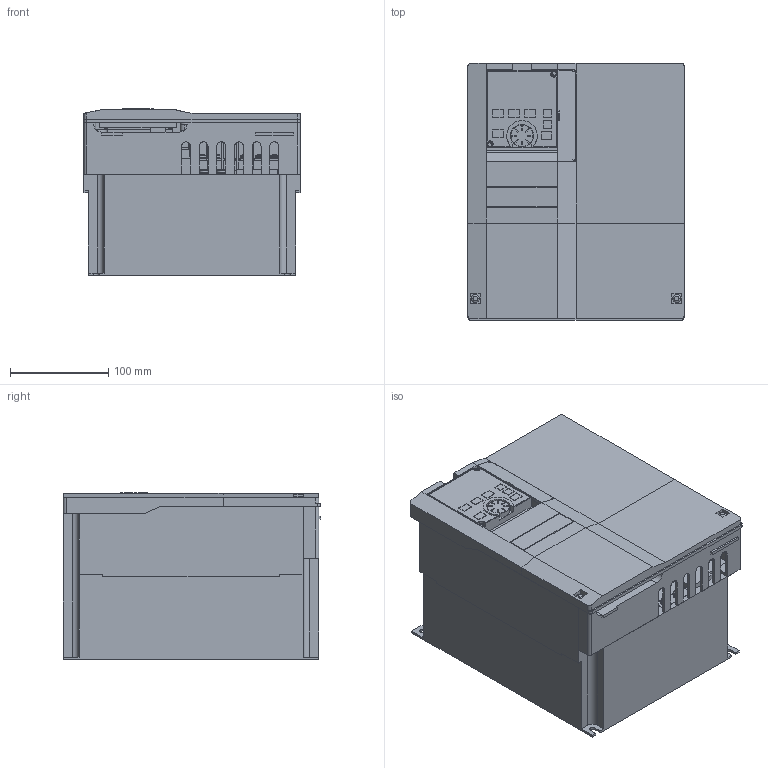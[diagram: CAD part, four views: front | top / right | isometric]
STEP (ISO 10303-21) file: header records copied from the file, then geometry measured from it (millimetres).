
FILE_DESCRIPTION((''),'2;1');
FILE_NAME('3D-INV-A8-01_05_ASM','2014-01-20T',('PZ79677'),(''),'PRO/ENGINEER BY PARAMETRIC TECHNOLOGY CORPORATION, 2011490','PRO/ENGINEER BY PARAMETRIC TECHNOLOGY CORPORATION, 2011490','');
FILE_SCHEMA(('CONFIG_CONTROL_DESIGN'));
Length unit declared in the file: millimetre
Products named in the file (21): 3D-BASE-A8-01_05; 3D-POWER-A8-01_05_ASM; 3D-FAN-60; 3D-FAN_COV-A8-01_05; 3D-TA-A8; 3D-A8-TA_ASM; 3D-SW-PW-P-M5X10-A8; 3D-DOT-R1S1-A8-01_05; 3D-DOT-P1-P-A8-01_05; 3D-DOT-PR-A8-01_05; 3D-TE-M4X10-KAKU12X9-01_05; 3D-TE_NEJI-M4X10-KAKU9-01_05; 3D-TE-M5X14-KAKU12X9-01_05; 3D-TE-A8-01_05_ASM; 3D-SEN_COV-A8-01_05; 3D-COV_UPR-A8-01_06; 3D-DU_ASSY-A8; 3D-IF_COV-A80; 3D-COV_UPR-A8-01_06_ASM; 3D-COV_LWR-A8-01_05; 3D-INV-A8-01_05_ASM
Assembly tree (33 placements, depth 3):
  3D-INV-A8-01_05_ASM
    3D-POWER-A8-01_05_ASM
      3D-BASE-A8-01_05
    3D-FAN-60  x2
    3D-FAN_COV-A8-01_05
    3D-A8-TA_ASM
      3D-TA-A8
    3D-SW-PW-P-M5X10-A8  x2
    3D-TE-A8-01_05_ASM
      3D-DOT-R1S1-A8-01_05  x2
      3D-DOT-P1-P-A8-01_05
      3D-DOT-PR-A8-01_05
      3D-TE-M4X10-KAKU12X9-01_05  x2
      3D-TE_NEJI-M4X10-KAKU9-01_05  x2
      3D-TE-M5X14-KAKU12X9-01_05  x9
    3D-SEN_COV-A8-01_05
    3D-COV_UPR-A8-01_06_ASM
      3D-COV_UPR-A8-01_06
      3D-DU_ASSY-A8
      3D-IF_COV-A80
    3D-COV_LWR-A8-01_05
Bounding box: 220 x 262 x 170 mm (x, y, z)
Volume: 7542441.8 mm3; surface area: 659712 mm2
Topology: 30 solids, 33 shells, 2054 faces, 5292 edges, 3462 vertices
Faces by surface type: plane 1557, cylinder 371, torus 52, sphere 40, cone 34
Entity records: 54466 total; most frequent: CARTESIAN_POINT 9504, ORIENTED_EDGE 9198, DIRECTION 9013, EDGE_CURVE 4599, VECTOR 3865, LINE 3865, VERTEX_POINT 3039, AXIS2_PLACEMENT_3D 2574
